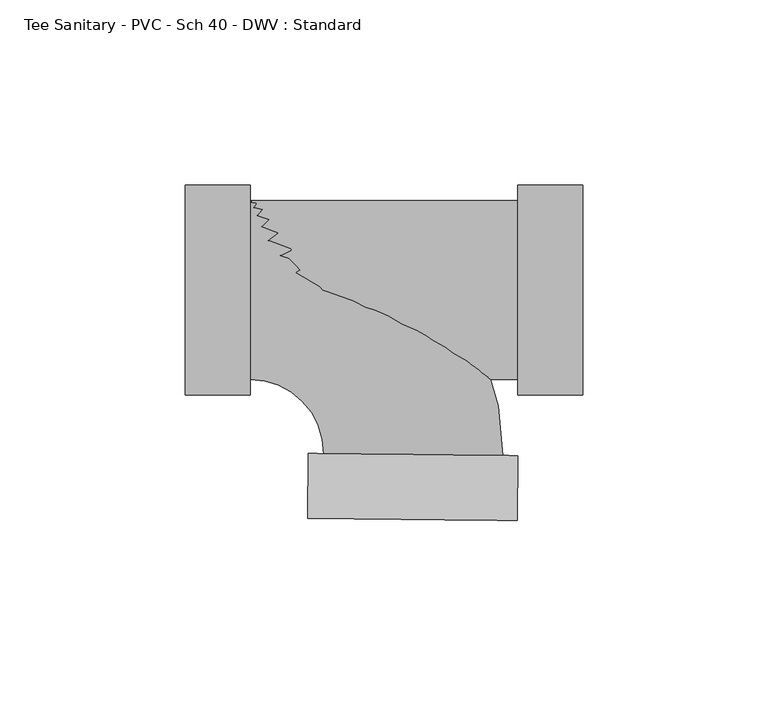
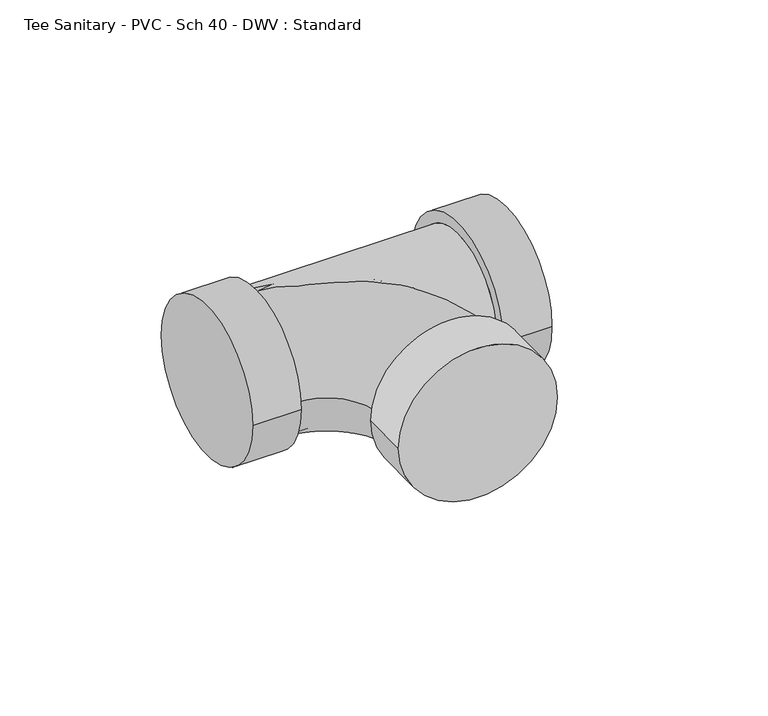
"""IFC4 building model written with IfcOpenShell, lengths in millimetres: pipe fitting geometry, Tee Sanitary - PVC - Sch 40 - DWV : Standard."""

from ifc_helpers import new_model, si_unit, point, frame, origin, place, context, project, spatial, circle_curve, ellipse_curve, trimmed, source, transform, mapped, element, save
from ifc_brep_helpers import plane_surface, cylinder_surface, revolved_surface, advanced_brep


def tee_sanitary_pvc_sch_40_dwv_standard_be04015c(model_context):
    return source(origin(), model_context, "Body", "AdvancedBrep", [
        advanced_brep(
        [(-44.45, -24.13, 0.0), (-44.45, 24.13, 0.0), (-24.5938632, -44.195037, 0.0), (23.6634939, -44.7000946, 0.0), (27.6335483, -62.1924005, 0.0), (-28.929154, -61.6004198, 0.0), (27.8161665, -44.7435561, 0.0), (-28.7465358, -44.1515754, 0.0)],
        [
            (0, 1, circle_curve(frame((-44.45, 0.0, 0.0), z_axis=(-1.0, 0.0, 0.0), x_axis=(0.0, 1.0, 0.0)), 24.13)),
            (1, 0, circle_curve(frame((-44.45, 0.0, 0.0), z_axis=(-1.0, 0.0, 0.0), x_axis=(0.0, 1.0, 0.0)), 24.13)),
            (0, 2, circle_curve(frame((-44.45, -43.9872243, 0.0), z_axis=(0.0, 0.0, -1.0), x_axis=(0.0, 1.0, 0.0)), 19.8572243)),
            (2, 3, circle_curve(frame((-0.4651846, -44.4475658, 0.0), z_axis=(0.010465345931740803, 0.9999452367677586, 0.0), x_axis=(0.9999452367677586, -0.010465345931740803, 0.0)), 24.13)),
            (3, 1, circle_curve(frame((-44.45, -43.9872243, 0.0), z_axis=(0.0, 0.0, 1.0), x_axis=(0.0, 1.0, 0.0)), 68.1172243)),
            (3, 2, circle_curve(frame((-0.4651846, -44.4475658, 0.0), z_axis=(0.01046534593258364, 0.9999452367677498, 0.0), x_axis=(0.9999452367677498, -0.01046534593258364, 0.0)), 24.13)),
            (4, 5, circle_curve(frame((-0.6478028, -61.8964102, 0.0), z_axis=(-0.010465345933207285, -0.9999452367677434, 0.0), x_axis=(-0.9999452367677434, 0.010465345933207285, 0.0)), 28.2829)),
            (5, 4, circle_curve(frame((-0.6478028, -61.8964102, 0.0), z_axis=(-0.010465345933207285, -0.9999452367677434, 0.0), x_axis=(-0.9999452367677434, 0.010465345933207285, 0.0)), 28.2829)),
            (6, 7, circle_curve(frame((-0.4651846, -44.4475658, 0.0), z_axis=(0.010465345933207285, 0.9999452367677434, 0.0), x_axis=(-0.9999452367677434, 0.010465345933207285, 0.0)), 28.2829)),
            (7, 6, circle_curve(frame((-0.4651846, -44.4475658, 0.0), z_axis=(0.010465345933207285, 0.9999452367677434, 0.0), x_axis=(-0.9999452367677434, 0.010465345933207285, 0.0)), 28.2829)),
            (4, 6),
            (7, 5),
        ],
        [
            plane_surface(frame((-44.45, 0.0, 0.0), z_axis=(-1.0, 0.0, 0.0), x_axis=(0.0, 0.0, 1.0))),
            revolved_surface(trimmed(ellipse_curve(frame((-44.45, 0.0, 0.0), z_axis=(-1.0, 0.0, 0.0), x_axis=(0.0, 1.0, 0.0)), 24.13, 24.13), [point((-44.45, -24.13, 0.0))], [point((-44.45, 24.13, 0.0))], True, "CARTESIAN"), (-44.45, -43.9872243, 0.0), (0.0, 0.0, -1.0)),
            revolved_surface(trimmed(ellipse_curve(frame((-44.45, 0.0, 0.0), z_axis=(-1.0, 0.0, 0.0), x_axis=(0.0, 1.0, 0.0)), 24.13, 24.13), [point((-44.45, 24.13, 0.0))], [point((-44.45, -24.13, 0.0))], True, "CARTESIAN"), (-44.45, -43.9872243, 0.0), (0.0, 0.0, -1.0)),
            plane_surface(frame((-0.6478028, -61.8964102, 0.0), z_axis=(-0.010465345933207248, -0.9999452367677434, 0.0), x_axis=(0.0, 0.0, 1.0))),
            plane_surface(frame((-0.4651846, -44.4475658, 0.0), z_axis=(0.010465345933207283, 0.9999452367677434, 0.0), x_axis=(0.0, 0.0, 1.0))),
            cylinder_surface(frame((-0.6478028, -61.8964102, 0.0), z_axis=(-0.010465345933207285, -0.9999452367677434, 0.0), x_axis=(-0.9999452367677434, 0.010465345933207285, 0.0)), 28.2829),
        ],
        [
            (0, [[1, 2]]),
            (1, [[-1, 3, 4, 5]]),
            (2, [[-2, -5, 6, -3]]),
            (3, [[7, 8]]),
            (4, [[9, 10], [-4, -6]]),
            (5, [[-7, 11, -10, 12]]),
            (5, [[-8, -12, -9, -11]]),
        ],
    ),
        advanced_brep(
        [(-44.45, -24.13, 0.0), (27.8161665, -24.13, 0.0), (27.8161665, 24.13, 0.0), (-44.45, 24.13, 0.0), (27.8161665, -28.2829, 0.0), (27.8161665, 28.2829, 0.0), (45.2659665, -28.2829, 0.0), (45.2659665, 28.2829, 0.0), (-61.8998, -28.2829, 0.0), (-61.8998, 28.2829, 0.0), (-44.45, -28.2829, 0.0), (-44.45, 28.2829, 0.0)],
        [
            (0, 1),
            (1, 2, circle_curve(frame((27.8161665, 0.0, 0.0), z_axis=(-1.0, 0.0, 0.0), x_axis=(0.0, 1.0, 0.0)), 24.13)),
            (2, 3),
            (3, 0, circle_curve(frame((-44.45, 0.0, 0.0), z_axis=(1.0, 0.0, 0.0), x_axis=(0.0, 1.0, 0.0)), 24.13)),
            (0, 3, circle_curve(frame((-44.45, 0.0, 0.0), z_axis=(1.0, 0.0, 0.0), x_axis=(0.0, 1.0, 0.0)), 24.13)),
            (2, 1, circle_curve(frame((27.8161665, 0.0, 0.0), z_axis=(-1.0, 0.0, 0.0), x_axis=(0.0, 1.0, 0.0)), 24.13)),
            (4, 5, circle_curve(frame((27.8161665, 0.0, 0.0), z_axis=(-1.0, 0.0, 0.0), x_axis=(0.0, 1.0, 0.0)), 28.2829)),
            (5, 4, circle_curve(frame((27.8161665, 0.0, 0.0), z_axis=(-1.0, 0.0, 0.0), x_axis=(0.0, 1.0, 0.0)), 28.2829)),
            (6, 7, circle_curve(frame((45.2659665, 0.0, 0.0), z_axis=(1.0, 0.0, 0.0), x_axis=(0.0, 1.0, 0.0)), 28.2829)),
            (7, 6, circle_curve(frame((45.2659665, 0.0, 0.0), z_axis=(1.0, 0.0, 0.0), x_axis=(0.0, 1.0, 0.0)), 28.2829)),
            (4, 6),
            (7, 5),
            (8, 9, circle_curve(frame((-61.8998, 0.0, 0.0), z_axis=(-1.0, 0.0, 0.0), x_axis=(0.0, 1.0, 0.0)), 28.2829)),
            (9, 8, circle_curve(frame((-61.8998, 0.0, 0.0), z_axis=(-1.0, 0.0, 0.0), x_axis=(0.0, 1.0, 0.0)), 28.2829)),
            (10, 11, circle_curve(frame((-44.45, 0.0, 0.0), z_axis=(1.0, 0.0, 0.0), x_axis=(0.0, 1.0, 0.0)), 28.2829)),
            (11, 10, circle_curve(frame((-44.45, 0.0, 0.0), z_axis=(1.0, 0.0, 0.0), x_axis=(0.0, 1.0, 0.0)), 28.2829)),
            (8, 10),
            (11, 9),
        ],
        [
            cylinder_surface(frame((-44.45, 0.0, 0.0), z_axis=(-1.0, 0.0, 0.0), x_axis=(0.0, 1.0, 0.0)), 24.13),
            plane_surface(frame((27.8161665, 0.0, 0.0), z_axis=(-1.0, 0.0, 0.0), x_axis=(0.0, 0.0, 1.0))),
            plane_surface(frame((45.2659665, 0.0, 0.0), z_axis=(1.0, 0.0, 0.0), x_axis=(0.0, 0.0, 1.0))),
            cylinder_surface(frame((27.8161665, 0.0, 0.0), z_axis=(-1.0, 0.0, 0.0), x_axis=(0.0, 1.0, 0.0)), 28.2829),
            plane_surface(frame((-61.8998, 0.0, 0.0), z_axis=(-1.0, 0.0, 0.0), x_axis=(0.0, 0.0, 1.0))),
            plane_surface(frame((-44.45, 0.0, 0.0), z_axis=(1.0, 0.0, 0.0), x_axis=(0.0, 0.0, 1.0))),
            cylinder_surface(frame((-61.8998, 0.0, 0.0), z_axis=(-1.0, 0.0, 0.0), x_axis=(0.0, 1.0, 0.0)), 28.2829),
        ],
        [
            (0, [[1, 2, 3, 4]]),
            (0, [[-1, 5, -3, 6]]),
            (1, [[7, 8], [-2, -6]]),
            (2, [[9, 10]]),
            (3, [[-7, 11, -10, 12]]),
            (3, [[-8, -12, -9, -11]]),
            (4, [[13, 14]]),
            (5, [[15, 16], [-4, -5]]),
            (6, [[-13, 17, -16, 18]]),
            (6, [[-14, -18, -15, -17]]),
        ],
    ),
    ])


if __name__ == "__main__":
    model = new_model("IFC4")
    model_context = context("Model", 3, world=origin())
    ifc_project = project(units=[si_unit("LENGTHUNIT", "METRE", prefix="MILLI")], contexts=[model_context])
    site = spatial("IfcSite", under=ifc_project)
    building = spatial("IfcBuilding", under=site)
    placement = place(None, origin())
    tee_sanitary_pvc_sch_40_dwv_standard_shape = tee_sanitary_pvc_sch_40_dwv_standard_be04015c(model_context)
    element("IfcPipeFitting", 1, ObjectType="Tee Sanitary - PVC - Sch 40 - DWV : Standard", at=placement, inside=building, context=model_context, shape_type="MappedRepresentation", body=[
        mapped(tee_sanitary_pvc_sch_40_dwv_standard_shape, transform((0.0, 0.0, 0.0), x_axis=(1.0, 0.0, 0.0), y_axis=(0.0, 1.0, 0.0), z_axis=(0.0, 0.0, 1.0))),
    ])
    save(model, "model.ifc")
